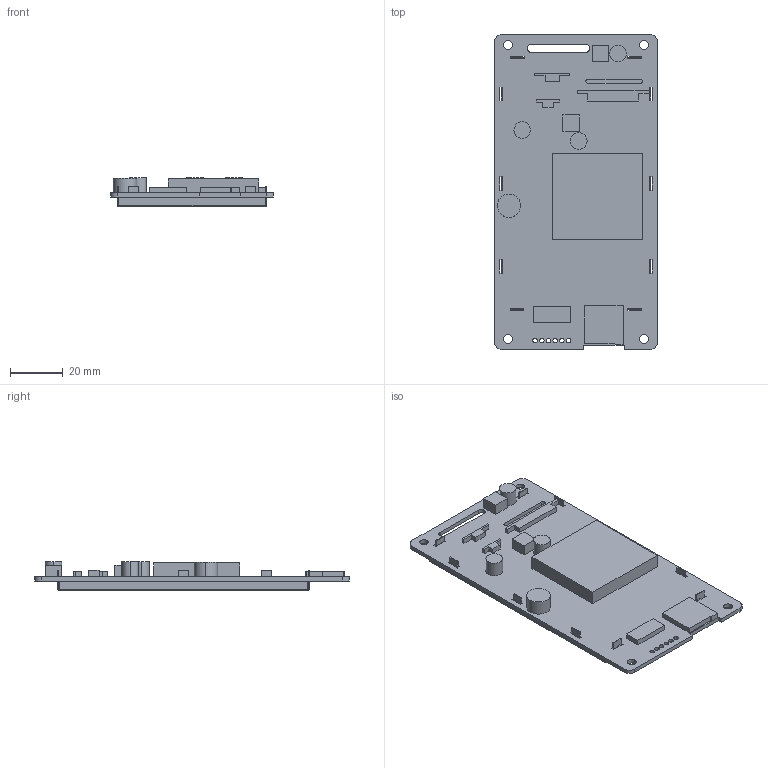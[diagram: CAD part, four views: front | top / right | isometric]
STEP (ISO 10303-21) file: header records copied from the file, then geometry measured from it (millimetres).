
FILE_DESCRIPTION (( 'STEP AP214' ), '1' );
FILE_NAME ('DMG80480C040_03WN 3D.STEP', '2023-08-14T08:57:54', ( '' ), ( 'Microsoft' ), 'SwSTEP 2.0', 'SolidWorks 2017', '' );
FILE_SCHEMA (( 'AUTOMOTIVE_DESIGN' ));
Length unit declared in the file: millimetre
Products named in the file (4): DMG80480C040_03WN 3D; DMG80480c040-03wn; TK040001; FC397HIL340-05(LI48800T040HA5004)
Assembly tree (3 placements, depth 2):
  DMG80480C040_03WN 3D
    DMG80480c040-03wn
    TK040001
    FC397HIL340-05(LI48800T040HA5004)
Bounding box: 61.85 x 119.51 x 11 mm (x, y, z)
Volume: 30838.6 mm3; surface area: 32525.3 mm2
Topology: 3 solids, 3 shells, 263 faces, 700 edges, 456 vertices
Faces by surface type: plane 209, cylinder 46, bspline 8
Entity records: 9250 total; most frequent: CARTESIAN_POINT 1769, ORIENTED_EDGE 1400, DIRECTION 1282, EDGE_CURVE 700, LINE 608, VECTOR 608, VERTEX_POINT 456, AXIS2_PLACEMENT_3D 337
